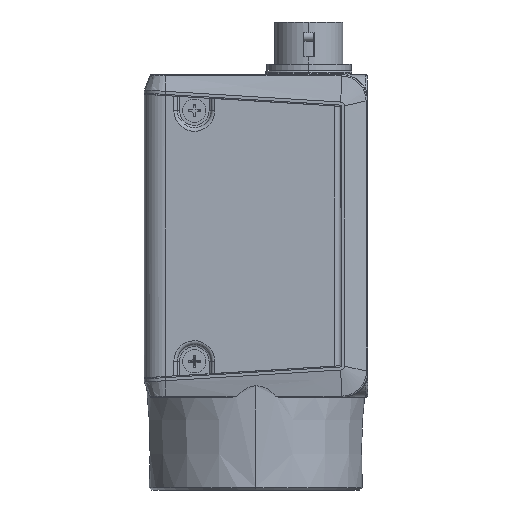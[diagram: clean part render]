
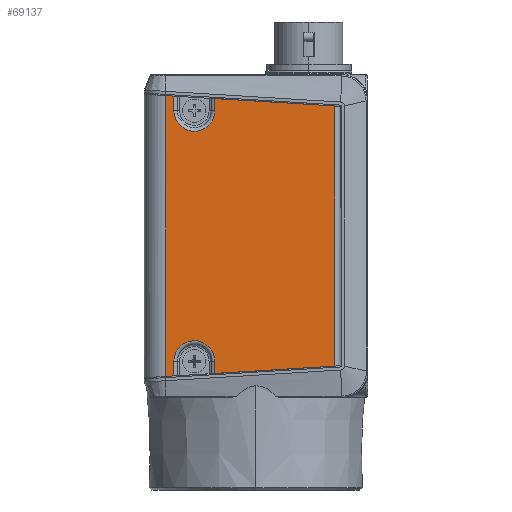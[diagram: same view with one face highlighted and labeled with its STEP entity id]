
A CAD part, left-side view. The second image highlights one B-rep face of the part: STEP entity #69137.
In plain terms, the highlighted planar face has unit normal (-1, 0, 0).
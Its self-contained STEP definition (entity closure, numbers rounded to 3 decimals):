
#13173=CARTESIAN_POINT('',(-14.5,-10.263,
13.575));
#13178=DIRECTION('',(0.,0.,1.));
#13179=VECTOR('',#13178,33.851);
#13180=CARTESIAN_POINT('',(-14.5,-10.263,
13.575));
#13181=LINE('',#13180,#13179);
#13209=CARTESIAN_POINT('',(-14.5,5.33,48.379));
#13320=DIRECTION('',(0.,0.,-1.));
#13321=VECTOR('',#13320,1.579);
#13322=CARTESIAN_POINT('',(-14.5,5.33,48.379));
#13323=LINE('',#13322,#13321);
#13327=CARTESIAN_POINT('',(-14.5,8.,14.2));
#13328=DIRECTION('',(-1.,0.,0.));
#13329=DIRECTION('',(0.,-1.,0.));
#13330=AXIS2_PLACEMENT_3D('',#13327,#13328,#13329);
#13335=CARTESIAN_POINT('',(-14.5,8.,14.2));
#13336=DIRECTION('',(-1.,0.,0.));
#13337=DIRECTION('',(0.,-0.999,0.054));
#13338=AXIS2_PLACEMENT_3D('',#13335,#13336,#13337);
#13343=DIRECTION('',(0.,0.998,-0.061));
#13344=VECTOR('',#13343,1.032);
#13345=CARTESIAN_POINT('',(-14.5,10.67,12.294));
#13346=LINE('',#13345,#13344);
#13350=DIRECTION('',(0.,-0.998,-0.061));
#13351=VECTOR('',#13350,1.032);
#13352=CARTESIAN_POINT('',(-14.5,11.7,
48.769));
#13353=LINE('',#13352,#13351);
#13357=CARTESIAN_POINT('',(-14.5,8.,46.8));
#13358=DIRECTION('',(-1.,0.,0.));
#13359=DIRECTION('',(0.,1.,0.));
#13360=AXIS2_PLACEMENT_3D('',#13357,#13358,#13359);
#13365=CARTESIAN_POINT('',(-14.5,8.,46.8));
#13366=DIRECTION('',(-1.,0.,0.));
#13367=DIRECTION('',(0.,0.999,-0.054));
#13368=AXIS2_PLACEMENT_3D('',#13365,#13366,#13367);
#13373=DIRECTION('',(0.,-0.998,-0.061));
#13374=VECTOR('',#13373,15.622);
#13375=CARTESIAN_POINT('',(-14.5,5.33,48.379));
#13376=LINE('',#13375,#13374);
#13380=DIRECTION('',(0.,0.998,-0.061));
#13381=VECTOR('',#13380,15.622);
#13382=CARTESIAN_POINT('',(-14.5,-10.263,
13.575));
#13383=LINE('',#13382,#13381);
#13387=DIRECTION('',(0.,0.,-1.));
#13388=VECTOR('',#13387,1.579);
#13389=CARTESIAN_POINT('',(-14.5,5.33,14.2));
#13390=LINE('',#13389,#13388);
#13469=CARTESIAN_POINT('',(-14.5,5.33,
12.621));
#13549=CARTESIAN_POINT('',(-14.5,10.67,48.706));
#31876=CARTESIAN_POINT('',(-14.5,11.7,
48.769));
#31881=DIRECTION('',(0.,0.,-1.));
#31882=VECTOR('',#31881,36.537);
#31883=CARTESIAN_POINT('',(-14.5,11.7,
48.769));
#31884=LINE('',#31883,#31882);
#31888=CARTESIAN_POINT('',(-14.5,11.7,
12.231));
#31935=CARTESIAN_POINT('',(-14.5,10.67,12.294));
#32163=DIRECTION('',(0.,0.,1.));
#32164=VECTOR('',#32163,1.906);
#32165=CARTESIAN_POINT('',(-14.5,10.67,12.294));
#32166=LINE('',#32165,#32164);
#37924=DIRECTION('',(0.,0.,1.));
#37925=VECTOR('',#37924,1.906);
#37926=CARTESIAN_POINT('',(-14.5,10.67,46.8));
#37927=LINE('',#37926,#37925);
#50906=VERTEX_POINT('',#31888);
#50909=VERTEX_POINT('',#31876);
#51092=VERTEX_POINT('',#13549);
#51113=VERTEX_POINT('',#13209);
#51114=CARTESIAN_POINT('',(-14.5,5.33,46.8));
#51115=VERTEX_POINT('',#51114);
#51116=CARTESIAN_POINT('',(-14.5,-10.263,
47.425));
#51117=VERTEX_POINT('',#51116);
#51124=VERTEX_POINT('',#13173);
#51143=VERTEX_POINT('',#13469);
#51180=VERTEX_POINT('',#31935);
#51181=CARTESIAN_POINT('',(-14.5,10.67,14.2));
#51182=VERTEX_POINT('',#51181);
#51183=CARTESIAN_POINT('',(-14.5,5.33,14.2));
#51184=VERTEX_POINT('',#51183);
#51185=CARTESIAN_POINT('',(-14.5,5.334,14.345));
#51186=VERTEX_POINT('',#51185);
#51187=CARTESIAN_POINT('',(-14.5,10.67,46.8));
#51188=VERTEX_POINT('',#51187);
#51189=CARTESIAN_POINT('',(-14.5,10.666,46.655));
#51190=VERTEX_POINT('',#51189);
#69105=CARTESIAN_POINT('',(-14.5,14.5,11.7));
#69106=DIRECTION('',(-1.,0.,0.));
#69107=DIRECTION('',(0.,0.,-1.));
#69108=AXIS2_PLACEMENT_3D('',#69105,#69106,#69107);
#69109=PLANE('',#69108);
#69111=ORIENTED_EDGE('',*,*,#69110,.F.);
#69113=ORIENTED_EDGE('',*,*,#69112,.T.);
#69115=ORIENTED_EDGE('',*,*,#69114,.T.);
#69117=ORIENTED_EDGE('',*,*,#69116,.F.);
#69119=ORIENTED_EDGE('',*,*,#69118,.T.);
#69121=ORIENTED_EDGE('',*,*,#69120,.F.);
#69123=ORIENTED_EDGE('',*,*,#69122,.T.);
#69125=ORIENTED_EDGE('',*,*,#69124,.F.);
#69127=ORIENTED_EDGE('',*,*,#69126,.T.);
#69129=ORIENTED_EDGE('',*,*,#69128,.T.);
#69130=ORIENTED_EDGE('',*,*,#69098,.F.);
#69131=ORIENTED_EDGE('',*,*,#68938,.T.);
#69132=ORIENTED_EDGE('',*,*,#68850,.F.);
#69134=ORIENTED_EDGE('',*,*,#69133,.T.);
#69135=EDGE_LOOP('',(#69111,#69113,#69115,#69117,#69119,#69121,#69123,#69125,
#69127,#69129,#69130,#69131,#69132,#69134));
#69136=FACE_OUTER_BOUND('',#69135,.F.);
#69137=ADVANCED_FACE('',(#69136),#69109,.T.);
#13331=CIRCLE('',#13330,2.67);
#13339=CIRCLE('',#13338,2.67);
#13361=CIRCLE('',#13360,2.67);
#13369=CIRCLE('',#13368,2.67);
#68850=EDGE_CURVE('',#51124,#51117,#13181,.T.);
#68938=EDGE_CURVE('',#51113,#51117,#13376,.T.);
#69098=EDGE_CURVE('',#51113,#51115,#13323,.T.);
#69110=EDGE_CURVE('',#51184,#51143,#13390,.T.);
#69112=EDGE_CURVE('',#51184,#51186,#13331,.T.);
#69114=EDGE_CURVE('',#51186,#51182,#13339,.T.);
#69116=EDGE_CURVE('',#51180,#51182,#32166,.T.);
#69118=EDGE_CURVE('',#51180,#50906,#13346,.T.);
#69120=EDGE_CURVE('',#50909,#50906,#31884,.T.);
#69122=EDGE_CURVE('',#50909,#51092,#13353,.T.);
#69124=EDGE_CURVE('',#51188,#51092,#37927,.T.);
#69126=EDGE_CURVE('',#51188,#51190,#13361,.T.);
#69128=EDGE_CURVE('',#51190,#51115,#13369,.T.);
#69133=EDGE_CURVE('',#51124,#51143,#13383,.T.);
